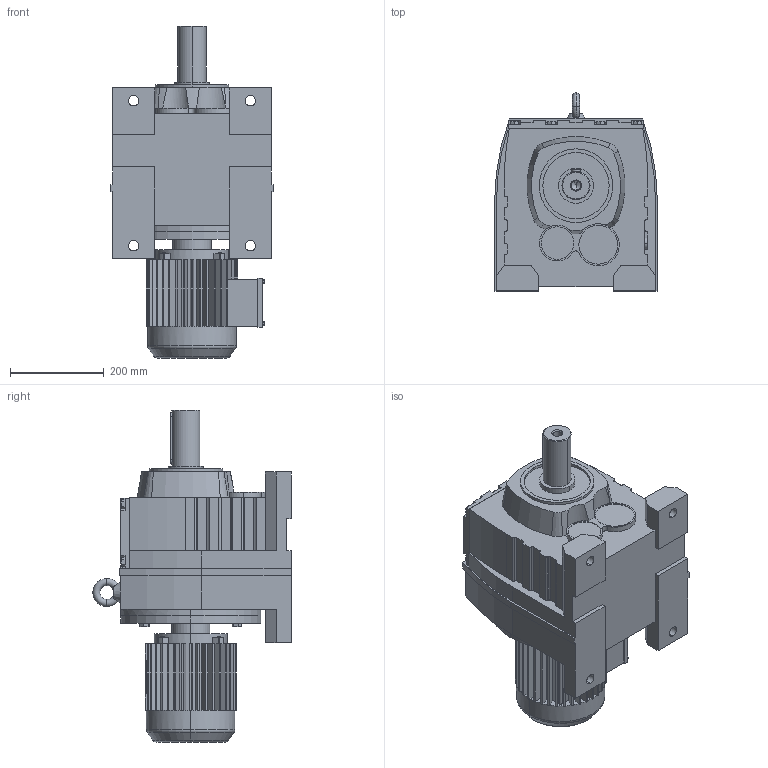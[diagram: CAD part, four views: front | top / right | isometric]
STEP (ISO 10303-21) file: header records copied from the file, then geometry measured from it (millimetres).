
FILE_DESCRIPTION(('Open CASCADE Model'),'2;1');
FILE_NAME('Open CASCADE Shape Model','2018-09-12T16:18:16',('Author'),( 'Open CASCADE'),'Open CASCADE STEP processor 6.3','Open CASCADE 6.3' ,'Unknown');
FILE_SCHEMA(('AUTOMOTIVE_DESIGN_CC2 { 1 2 10303 214 -1 1 5 4 }'));
Length unit declared in the file: millimetre
Products named in the file (3): 233_R97-Y90S; R37‵167_97.step; 萇儂_300_Y90S.step
Assembly tree (2 placements, depth 2):
  233_R97-Y90S
    R37‵167_97.step
    萇儂_300_Y90S.step
Bounding box: 348 x 424 x 710 mm (x, y, z)
Volume: 39187020.7 mm3; surface area: 1301294.9 mm2
Topology: 2 solids, 2 shells, 750 faces, 2001 edges, 1292 vertices
Faces by surface type: plane 533, cylinder 187, cone 20, torus 10
Entity records: 52303 total; most frequent: CARTESIAN_POINT 14113, DIRECTION 6666, ORIENTED_EDGE 3998, PCURVE 3998, DEFINITIONAL_REPRESENTATION 3998, LINE 3738, VECTOR 3738, EDGE_CURVE 1999
